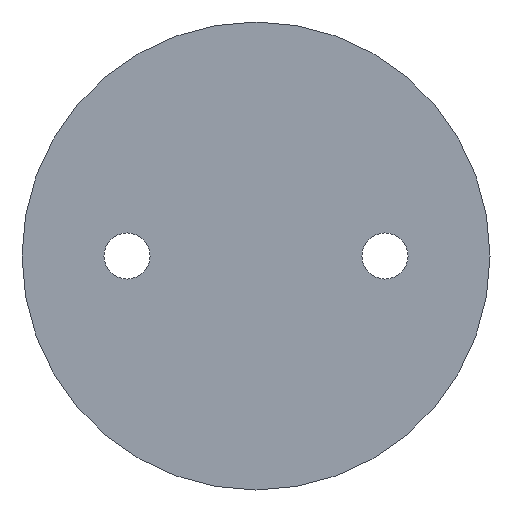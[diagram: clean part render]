
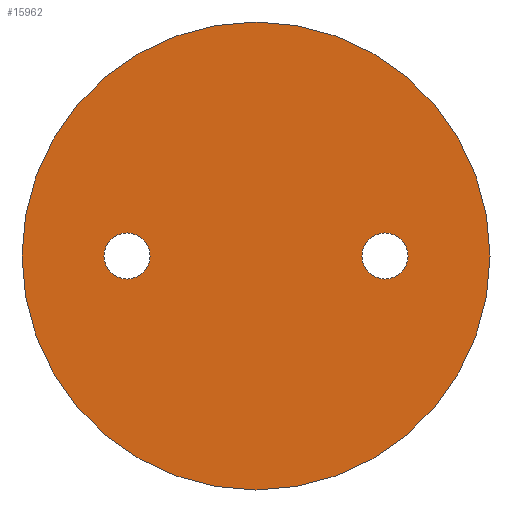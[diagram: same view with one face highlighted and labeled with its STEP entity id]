
A CAD part, front view. The second image highlights one B-rep face of the part: STEP entity #15962.
In plain terms, the highlighted planar face has unit normal (0, -1, 0).
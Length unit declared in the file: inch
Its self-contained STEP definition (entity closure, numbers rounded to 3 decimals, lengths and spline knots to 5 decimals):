
#251 = CIRCLE ( 'NONE', #21442, 0.5 ) ;
#287 = CARTESIAN_POINT ( 'NONE',  ( 0.77559, -0.06299, -0.5 ) ) ;
#297 = FACE_BOUND ( 'NONE', #3890, .T. ) ;
#964 = DIRECTION ( 'NONE',  ( 0., 1., 0. ) ) ;
#1450 = CIRCLE ( 'NONE', #6893, 0.04921 ) ;
#2288 = DIRECTION ( 'NONE',  ( 0., 0., 1. ) ) ;
#2295 = CARTESIAN_POINT ( 'NONE',  ( 0.22441, -0.06299, -0.5 ) ) ;
#3890 = EDGE_LOOP ( 'NONE', ( #15078, #10998 ) ) ;
#4281 = DIRECTION ( 'NONE',  ( 0., 0., 1. ) ) ;
#4779 = CARTESIAN_POINT ( 'NONE',  ( 0.22441, -0.06299, -0.5 ) ) ;
#4926 = ORIENTED_EDGE ( 'NONE', *, *, #25841, .T. ) ;
#5749 = CARTESIAN_POINT ( 'NONE',  ( 0.5, -0.06299, -0.5 ) ) ;
#5788 = CARTESIAN_POINT ( 'NONE',  ( 0.5, -0.06299, -0.5 ) ) ;
#6796 = DIRECTION ( 'NONE',  ( 0., 0., 1. ) ) ;
#6893 = AXIS2_PLACEMENT_3D ( 'NONE', #287, #14313, #2288 ) ;
#7462 = VERTEX_POINT ( 'NONE', #12704 ) ;
#7784 = DIRECTION ( 'NONE',  ( 0., 0., 1. ) ) ;
#7831 = PLANE ( 'NONE',  #16713 ) ;
#8519 = EDGE_LOOP ( 'NONE', ( #15944, #4926 ) ) ;
#8915 = AXIS2_PLACEMENT_3D ( 'NONE', #4779, #18843, #6796 ) ;
#8931 = ORIENTED_EDGE ( 'NONE', *, *, #16578, .F. ) ;
#9087 = CARTESIAN_POINT ( 'NONE',  ( 0.5, -0.06299, -0.5 ) ) ;
#9139 = AXIS2_PLACEMENT_3D ( 'NONE', #12970, #964, #14985 ) ;
#9614 = CARTESIAN_POINT ( 'NONE',  ( 0.22441, -0.06299, -0.45079 ) ) ;
#9963 = VERTEX_POINT ( 'NONE', #9614 ) ;
#10317 = FACE_OUTER_BOUND ( 'NONE', #17947, .T. ) ;
#10998 = ORIENTED_EDGE ( 'NONE', *, *, #24938, .T. ) ;
#11074 = DIRECTION ( 'NONE',  ( 0., 0., 1. ) ) ;
#11807 = DIRECTION ( 'NONE',  ( 0., 1., 0. ) ) ;
#12704 = CARTESIAN_POINT ( 'NONE',  ( 0.22441, -0.06299, -0.54921 ) ) ;
#12970 = CARTESIAN_POINT ( 'NONE',  ( 0.77559, -0.06299, -0.5 ) ) ;
#14313 = DIRECTION ( 'NONE',  ( 0., 1., 0. ) ) ;
#14359 = VERTEX_POINT ( 'NONE', #16667 ) ;
#14397 = CIRCLE ( 'NONE', #9139, 0.04921 ) ;
#14985 = DIRECTION ( 'NONE',  ( 0., 0., 1. ) ) ;
#15078 = ORIENTED_EDGE ( 'NONE', *, *, #18972, .T. ) ;
#15667 = FACE_BOUND ( 'NONE', #8519, .T. ) ;
#15707 = CARTESIAN_POINT ( 'NONE',  ( 0.5, -0.06299, -1. ) ) ;
#15944 = ORIENTED_EDGE ( 'NONE', *, *, #20453, .T. ) ;
#15962 = ADVANCED_FACE ( 'NONE', ( #15667, #297, #10317 ), #7831, .F. ) ;
#16275 = CARTESIAN_POINT ( 'NONE',  ( 0.77559, -0.06299, -0.54921 ) ) ;
#16341 = DIRECTION ( 'NONE',  ( 0., 1., 0. ) ) ;
#16576 = ORIENTED_EDGE ( 'NONE', *, *, #23613, .F. ) ;
#16578 = EDGE_CURVE ( 'NONE', #17834, #14359, #251, .T. ) ;
#16667 = CARTESIAN_POINT ( 'NONE',  ( 0.5, -0.06299, 0. ) ) ;
#16713 = AXIS2_PLACEMENT_3D ( 'NONE', #5788, #11807, #25851 ) ;
#17758 = AXIS2_PLACEMENT_3D ( 'NONE', #5749, #19765, #7784 ) ;
#17834 = VERTEX_POINT ( 'NONE', #15707 ) ;
#17947 = EDGE_LOOP ( 'NONE', ( #16576, #8931 ) ) ;
#18843 = DIRECTION ( 'NONE',  ( 0., 1., 0. ) ) ;
#18972 = EDGE_CURVE ( 'NONE', #9963, #7462, #21447, .T. ) ;
#19124 = CIRCLE ( 'NONE', #8915, 0.04921 ) ;
#19204 = CIRCLE ( 'NONE', #17758, 0.5 ) ;
#19765 = DIRECTION ( 'NONE',  ( 0., 1., 0. ) ) ;
#20453 = EDGE_CURVE ( 'NONE', #20679, #25225, #14397, .T. ) ;
#20679 = VERTEX_POINT ( 'NONE', #21776 ) ;
#21163 = AXIS2_PLACEMENT_3D ( 'NONE', #2295, #16341, #4281 ) ;
#21442 = AXIS2_PLACEMENT_3D ( 'NONE', #9087, #23053, #11074 ) ;
#21447 = CIRCLE ( 'NONE', #21163, 0.04921 ) ;
#21776 = CARTESIAN_POINT ( 'NONE',  ( 0.77559, -0.06299, -0.45079 ) ) ;
#23053 = DIRECTION ( 'NONE',  ( 0., 1., 0. ) ) ;
#23613 = EDGE_CURVE ( 'NONE', #14359, #17834, #19204, .T. ) ;
#24938 = EDGE_CURVE ( 'NONE', #7462, #9963, #19124, .T. ) ;
#25225 = VERTEX_POINT ( 'NONE', #16275 ) ;
#25841 = EDGE_CURVE ( 'NONE', #25225, #20679, #1450, .T. ) ;
#25851 = DIRECTION ( 'NONE',  ( 0., 0., 1. ) ) ;
